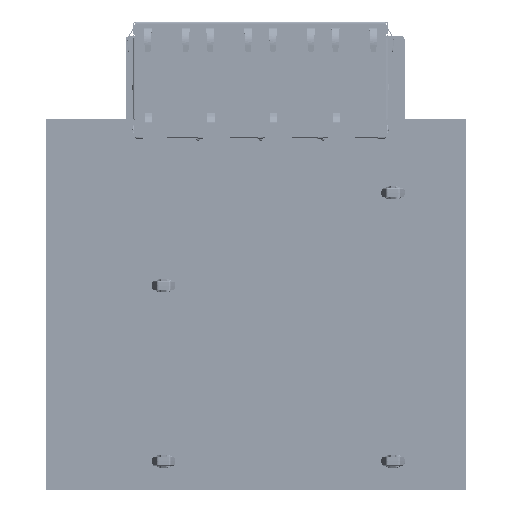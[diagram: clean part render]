
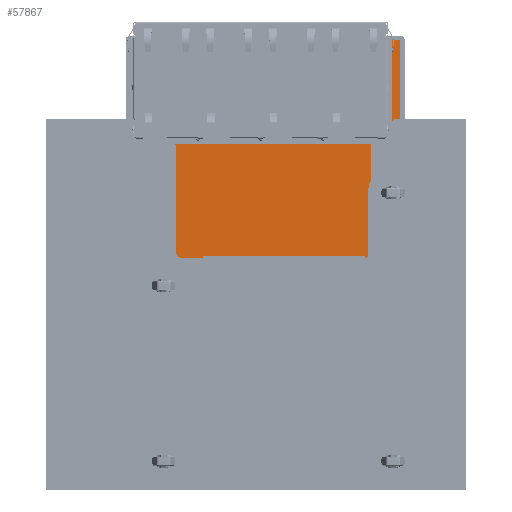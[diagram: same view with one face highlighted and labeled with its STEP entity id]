
A CAD part, front view. The second image highlights one B-rep face of the part: STEP entity #57867.
In plain terms, the highlighted planar face has unit normal (0, -1, 0).
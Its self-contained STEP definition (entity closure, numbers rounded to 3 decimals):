
#57229=DIRECTION('',(0.,0.,-1.));
#57230=VECTOR('',#57229,25.1);
#57231=CARTESIAN_POINT('',(43.545,-4.5,-15.299));
#57232=LINE('',#57231,#57230);
#57257=DIRECTION('',(1.,0.,0.));
#57258=VECTOR('',#57257,63.548);
#57259=CARTESIAN_POINT('',(-20.003,-4.5,-40.399));
#57260=LINE('',#57259,#57258);
#57264=DIRECTION('',(-1.,0.,0.));
#57265=VECTOR('',#57264,2.052);
#57266=CARTESIAN_POINT('',(45.597,-4.5,-15.299));
#57267=LINE('',#57266,#57265);
#57271=CARTESIAN_POINT('',(46.597,-4.5,-41.85));
#57272=DIRECTION('',(0.,1.,0.));
#57273=DIRECTION('',(0.,0.,-1.));
#57274=AXIS2_PLACEMENT_3D('',#57271,#57272,#57273);
#57279=DIRECTION('',(-1.,0.,0.));
#57280=VECTOR('',#57279,1.4);
#57281=CARTESIAN_POINT('',(47.997,-4.5,-42.85));
#57282=LINE('',#57281,#57280);
#57286=CARTESIAN_POINT('',(47.997,-4.5,-43.85));
#57287=DIRECTION('',(0.,-1.,0.));
#57288=DIRECTION('',(1.,0.,0.));
#57289=AXIS2_PLACEMENT_3D('',#57286,#57287,#57288);
#57294=DIRECTION('',(0.,0.,1.));
#57295=VECTOR('',#57294,2.837);
#57296=CARTESIAN_POINT('',(48.997,-4.5,-46.687));
#57297=LINE('',#57296,#57295);
#57301=DIRECTION('',(1.,0.,0.));
#57302=VECTOR('',#57301,6.203);
#57303=CARTESIAN_POINT('',(42.794,-4.5,-46.687));
#57304=LINE('',#57303,#57302);
#57308=CARTESIAN_POINT('',(42.794,-4.5,-51.687));
#57309=DIRECTION('',(0.,1.,0.));
#57310=DIRECTION('',(-1.,0.,0.));
#57311=AXIS2_PLACEMENT_3D('',#57308,#57309,#57310);
#57316=DIRECTION('',(0.,0.,1.));
#57317=VECTOR('',#57316,65.012);
#57318=CARTESIAN_POINT('',(37.794,-4.5,-116.699));
#57319=LINE('',#57318,#57317);
#57323=CARTESIAN_POINT('',(42.794,-4.5,-116.699));
#57324=DIRECTION('',(0.,1.,0.));
#57325=DIRECTION('',(0.,0.,-1.));
#57326=AXIS2_PLACEMENT_3D('',#57323,#57324,#57325);
#57331=DIRECTION('',(-1.,0.,0.));
#57332=VECTOR('',#57331,6.203);
#57333=CARTESIAN_POINT('',(48.997,-4.5,-121.699));
#57334=LINE('',#57333,#57332);
#57338=CARTESIAN_POINT('',(47.997,-4.5,-121.699));
#57339=DIRECTION('',(0.,-1.,0.));
#57340=DIRECTION('',(0.,0.,-1.));
#57341=AXIS2_PLACEMENT_3D('',#57338,#57339,#57340);
#57346=DIRECTION('',(1.,0.,0.));
#57347=VECTOR('',#57346,64.);
#57348=CARTESIAN_POINT('',(-16.003,-4.5,-122.699));
#57349=LINE('',#57348,#57347);
#57353=CARTESIAN_POINT('',(-16.003,-4.5,-121.699));
#57354=DIRECTION('',(0.,-1.,0.));
#57355=DIRECTION('',(-1.,0.,0.));
#57356=AXIS2_PLACEMENT_3D('',#57353,#57354,#57355);
#57361=DIRECTION('',(-1.,0.,0.));
#57362=VECTOR('',#57361,6.203);
#57363=CARTESIAN_POINT('',(-10.8,-4.5,-121.699));
#57364=LINE('',#57363,#57362);
#57368=CARTESIAN_POINT('',(-10.8,-4.5,-116.699));
#57369=DIRECTION('',(0.,1.,0.));
#57370=DIRECTION('',(1.,0.,0.));
#57371=AXIS2_PLACEMENT_3D('',#57368,#57369,#57370);
#57376=DIRECTION('',(0.,0.,-1.));
#57377=VECTOR('',#57376,42.5);
#57378=CARTESIAN_POINT('',(-5.8,-4.5,-74.199));
#57379=LINE('',#57378,#57377);
#57383=CARTESIAN_POINT('',(-10.8,-4.5,-74.199));
#57384=DIRECTION('',(0.,1.,0.));
#57385=DIRECTION('',(0.,0.,1.));
#57386=AXIS2_PLACEMENT_3D('',#57383,#57384,#57385);
#57391=DIRECTION('',(1.,0.,0.));
#57392=VECTOR('',#57391,6.203);
#57393=CARTESIAN_POINT('',(-17.003,-4.5,-69.199));
#57394=LINE('',#57393,#57392);
#57398=DIRECTION('',(0.,0.,-1.));
#57399=VECTOR('',#57398,25.147);
#57400=CARTESIAN_POINT('',(-17.003,-4.5,-44.052));
#57401=LINE('',#57400,#57399);
#57405=CARTESIAN_POINT('',(-18.003,-4.5,-44.052));
#57406=DIRECTION('',(0.,1.,0.));
#57407=DIRECTION('',(0.,0.,1.));
#57408=AXIS2_PLACEMENT_3D('',#57405,#57406,#57407);
#57413=DIRECTION('',(1.,0.,0.));
#57414=VECTOR('',#57413,1.);
#57415=CARTESIAN_POINT('',(-19.003,-4.5,-43.052));
#57416=LINE('',#57415,#57414);
#57420=CARTESIAN_POINT('',(-19.003,-4.5,-42.052));
#57421=DIRECTION('',(0.,-1.,0.));
#57422=DIRECTION('',(-1.,0.,0.));
#57423=AXIS2_PLACEMENT_3D('',#57420,#57421,#57422);
#57428=DIRECTION('',(0.,0.,-1.));
#57429=VECTOR('',#57428,1.653);
#57430=CARTESIAN_POINT('',(-20.003,-4.5,-40.399));
#57431=LINE('',#57430,#57429);
#57442=DIRECTION('',(0.,0.,1.));
#57443=VECTOR('',#57442,26.551);
#57444=CARTESIAN_POINT('',(45.597,-4.5,-41.85));
#57445=LINE('',#57444,#57443);
#57653=CARTESIAN_POINT('',(-17.003,-4.5,-69.199));
#57654=CARTESIAN_POINT('',(-10.8,-4.5,-69.199));
#57655=VERTEX_POINT('',#57653);
#57656=VERTEX_POINT('',#57654);
#57657=CARTESIAN_POINT('',(-5.8,-4.5,-74.199));
#57658=VERTEX_POINT('',#57657);
#57659=CARTESIAN_POINT('',(-5.8,-4.5,-116.699));
#57660=VERTEX_POINT('',#57659);
#57661=CARTESIAN_POINT('',(-10.8,-4.5,-121.699));
#57662=VERTEX_POINT('',#57661);
#57663=CARTESIAN_POINT('',(-17.003,-4.5,-121.699));
#57664=VERTEX_POINT('',#57663);
#57665=CARTESIAN_POINT('',(-16.003,-4.5,-122.699));
#57666=VERTEX_POINT('',#57665);
#57667=CARTESIAN_POINT('',(47.997,-4.5,-122.699));
#57668=VERTEX_POINT('',#57667);
#57669=CARTESIAN_POINT('',(48.997,-4.5,-121.699));
#57670=VERTEX_POINT('',#57669);
#57671=CARTESIAN_POINT('',(42.794,-4.5,-121.699));
#57672=VERTEX_POINT('',#57671);
#57673=CARTESIAN_POINT('',(37.794,-4.5,-116.699));
#57674=VERTEX_POINT('',#57673);
#57675=CARTESIAN_POINT('',(37.794,-4.5,-51.687));
#57676=VERTEX_POINT('',#57675);
#57677=CARTESIAN_POINT('',(42.794,-4.5,-46.687));
#57678=VERTEX_POINT('',#57677);
#57679=CARTESIAN_POINT('',(48.997,-4.5,-46.687));
#57680=VERTEX_POINT('',#57679);
#57681=CARTESIAN_POINT('',(48.997,-4.5,-43.85));
#57682=VERTEX_POINT('',#57681);
#57683=CARTESIAN_POINT('',(47.997,-4.5,-42.85));
#57684=VERTEX_POINT('',#57683);
#57685=CARTESIAN_POINT('',(46.597,-4.5,-42.85));
#57686=VERTEX_POINT('',#57685);
#57687=CARTESIAN_POINT('',(45.597,-4.5,-41.85));
#57688=VERTEX_POINT('',#57687);
#57689=CARTESIAN_POINT('',(45.597,-4.5,-15.299));
#57690=CARTESIAN_POINT('',(43.545,-4.5,-15.299));
#57691=VERTEX_POINT('',#57689);
#57692=VERTEX_POINT('',#57690);
#57697=CARTESIAN_POINT('',(-20.003,-4.5,-42.052));
#57698=CARTESIAN_POINT('',(-19.003,-4.5,-43.052));
#57699=VERTEX_POINT('',#57697);
#57700=VERTEX_POINT('',#57698);
#57701=CARTESIAN_POINT('',(-18.003,-4.5,-43.052));
#57702=VERTEX_POINT('',#57701);
#57710=CARTESIAN_POINT('',(-17.003,-4.5,-44.052));
#57712=VERTEX_POINT('',#57710);
#57717=CARTESIAN_POINT('',(-20.003,-4.5,-40.399));
#57718=CARTESIAN_POINT('',(43.545,-4.5,-40.399));
#57719=VERTEX_POINT('',#57717);
#57720=VERTEX_POINT('',#57718);
#57810=CARTESIAN_POINT('',(0.,-4.5,0.));
#57811=DIRECTION('',(0.,-1.,0.));
#57812=DIRECTION('',(1.,0.,0.));
#57813=AXIS2_PLACEMENT_3D('',#57810,#57811,#57812);
#57814=PLANE('',#57813);
#57815=ORIENTED_EDGE('',*,*,#57789,.T.);
#57816=ORIENTED_EDGE('',*,*,#57801,.F.);
#57818=ORIENTED_EDGE('',*,*,#57817,.F.);
#57820=ORIENTED_EDGE('',*,*,#57819,.F.);
#57822=ORIENTED_EDGE('',*,*,#57821,.F.);
#57824=ORIENTED_EDGE('',*,*,#57823,.F.);
#57826=ORIENTED_EDGE('',*,*,#57825,.F.);
#57828=ORIENTED_EDGE('',*,*,#57827,.F.);
#57830=ORIENTED_EDGE('',*,*,#57829,.F.);
#57832=ORIENTED_EDGE('',*,*,#57831,.F.);
#57834=ORIENTED_EDGE('',*,*,#57833,.F.);
#57836=ORIENTED_EDGE('',*,*,#57835,.F.);
#57838=ORIENTED_EDGE('',*,*,#57837,.F.);
#57840=ORIENTED_EDGE('',*,*,#57839,.F.);
#57842=ORIENTED_EDGE('',*,*,#57841,.F.);
#57844=ORIENTED_EDGE('',*,*,#57843,.F.);
#57846=ORIENTED_EDGE('',*,*,#57845,.F.);
#57848=ORIENTED_EDGE('',*,*,#57847,.F.);
#57850=ORIENTED_EDGE('',*,*,#57849,.F.);
#57852=ORIENTED_EDGE('',*,*,#57851,.F.);
#57854=ORIENTED_EDGE('',*,*,#57853,.F.);
#57856=ORIENTED_EDGE('',*,*,#57855,.F.);
#57858=ORIENTED_EDGE('',*,*,#57857,.F.);
#57860=ORIENTED_EDGE('',*,*,#57859,.F.);
#57862=ORIENTED_EDGE('',*,*,#57861,.F.);
#57864=ORIENTED_EDGE('',*,*,#57863,.F.);
#57865=EDGE_LOOP('',(#57815,#57816,#57818,#57820,#57822,#57824,#57826,#57828,
#57830,#57832,#57834,#57836,#57838,#57840,#57842,#57844,#57846,#57848,#57850,
#57852,#57854,#57856,#57858,#57860,#57862,#57864));
#57866=FACE_OUTER_BOUND('',#57865,.F.);
#57275=CIRCLE('',#57274,1.);
#57290=CIRCLE('',#57289,1.);
#57312=CIRCLE('',#57311,5.);
#57327=CIRCLE('',#57326,5.);
#57342=CIRCLE('',#57341,1.);
#57357=CIRCLE('',#57356,1.);
#57372=CIRCLE('',#57371,5.);
#57387=CIRCLE('',#57386,5.);
#57409=CIRCLE('',#57408,1.);
#57424=CIRCLE('',#57423,1.);
#57789=EDGE_CURVE('',#57719,#57720,#57260,.T.);
#57801=EDGE_CURVE('',#57692,#57720,#57232,.T.);
#57817=EDGE_CURVE('',#57691,#57692,#57267,.T.);
#57819=EDGE_CURVE('',#57688,#57691,#57445,.T.);
#57821=EDGE_CURVE('',#57686,#57688,#57275,.T.);
#57823=EDGE_CURVE('',#57684,#57686,#57282,.T.);
#57825=EDGE_CURVE('',#57682,#57684,#57290,.T.);
#57827=EDGE_CURVE('',#57680,#57682,#57297,.T.);
#57829=EDGE_CURVE('',#57678,#57680,#57304,.T.);
#57831=EDGE_CURVE('',#57676,#57678,#57312,.T.);
#57833=EDGE_CURVE('',#57674,#57676,#57319,.T.);
#57835=EDGE_CURVE('',#57672,#57674,#57327,.T.);
#57837=EDGE_CURVE('',#57670,#57672,#57334,.T.);
#57839=EDGE_CURVE('',#57668,#57670,#57342,.T.);
#57841=EDGE_CURVE('',#57666,#57668,#57349,.T.);
#57843=EDGE_CURVE('',#57664,#57666,#57357,.T.);
#57845=EDGE_CURVE('',#57662,#57664,#57364,.T.);
#57847=EDGE_CURVE('',#57660,#57662,#57372,.T.);
#57849=EDGE_CURVE('',#57658,#57660,#57379,.T.);
#57851=EDGE_CURVE('',#57656,#57658,#57387,.T.);
#57853=EDGE_CURVE('',#57655,#57656,#57394,.T.);
#57855=EDGE_CURVE('',#57712,#57655,#57401,.T.);
#57857=EDGE_CURVE('',#57702,#57712,#57409,.T.);
#57859=EDGE_CURVE('',#57700,#57702,#57416,.T.);
#57861=EDGE_CURVE('',#57699,#57700,#57424,.T.);
#57863=EDGE_CURVE('',#57719,#57699,#57431,.T.);
#57867=ADVANCED_FACE('',(#57866),#57814,.T.);
